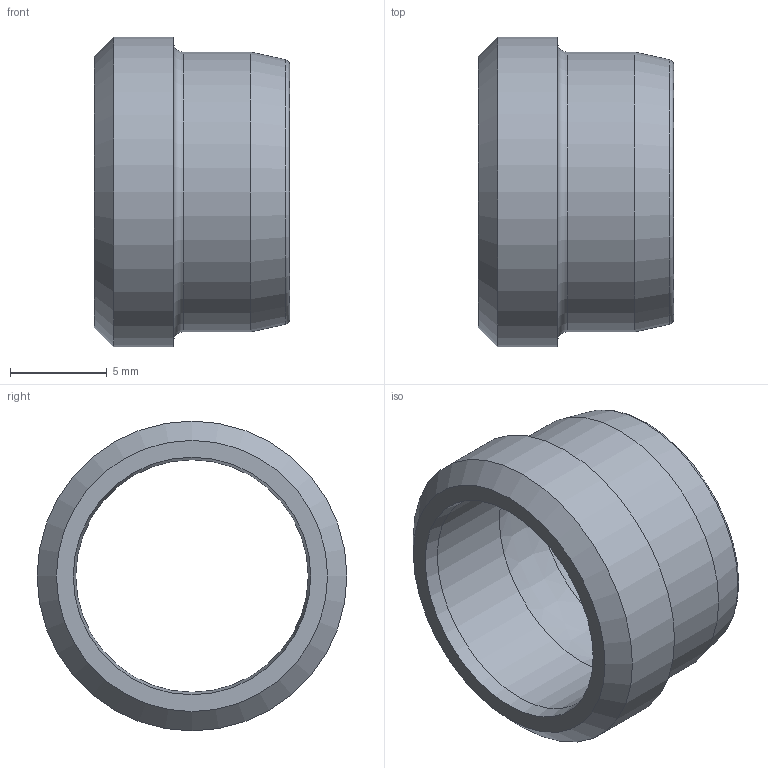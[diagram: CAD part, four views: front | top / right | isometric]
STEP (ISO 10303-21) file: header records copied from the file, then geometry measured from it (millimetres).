
FILE_DESCRIPTION( ( 'Unknown' ), '1' );
FILE_NAME( 'C:/Users/p.nanko/Desktop/3D SR/D12L_S.stp', 'Unknown', ( 'Peter Nanko' ), ( 'Armaturen Arndt' ), 'PSStep 14.0', 'Solid Edge ST4', ' ' );
FILE_SCHEMA( ( 'AUTOMOTIVE_DESIGN { 1 0 10303 214 1 1 1 1 }' ) );
Length unit declared in the file: millimetre
Products named in the file (1): 1001ESTERNO#0
Bounding box: 10.07 x 16 x 16 mm (x, y, z)
Volume: 583.6 mm3; surface area: 985 mm2
Topology: 1 solids, 1 shells, 15 faces, 30 edges, 19 vertices
Faces by surface type: plane 4, cone 4, torus 3, cylinder 3, bspline 1
Full cylindrical faces by diameter (mm): 12 x1, 14.45 x1, 16 x1
Entity records: 467 total; most frequent: CARTESIAN_POINT 73, DIRECTION 60, AXIS2_PLACEMENT_3D 30, EDGE_LOOP 30, ORIENTED_EDGE 30, FACE_OUTER_BOUND 22, STYLED_ITEM 15, PRESENTATION_STYLE_ASSIGNMENT 15
